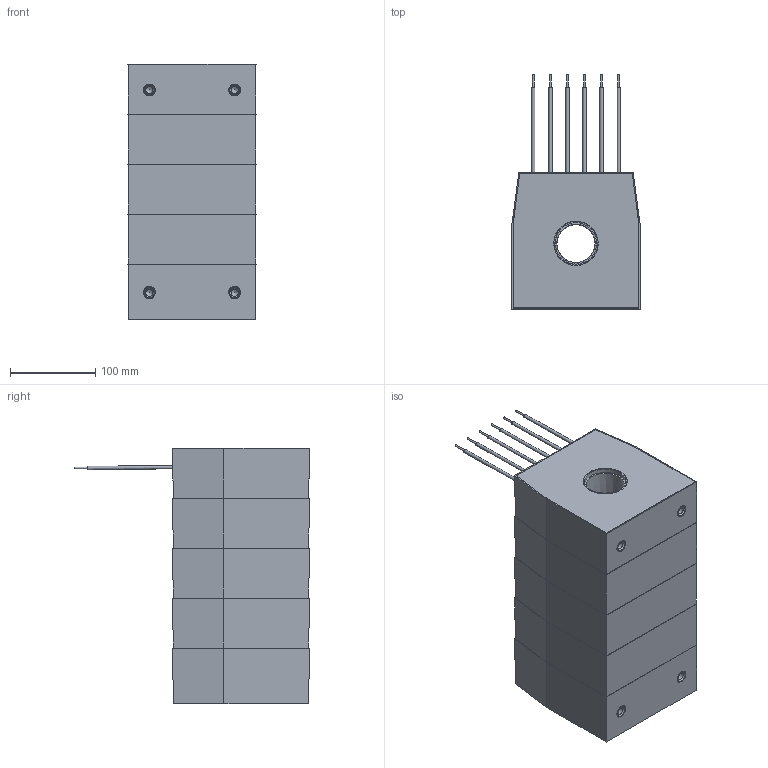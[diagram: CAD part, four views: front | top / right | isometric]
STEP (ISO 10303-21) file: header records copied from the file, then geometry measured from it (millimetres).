
FILE_DESCRIPTION(('STEP AP203'), '1');
FILE_NAME('ÒØÏ-ÍÒÇ-0,66-65Ñ (45 ìì, 5-é ãàáàðèò)', '2025-08-27T09:28:20', ('UNSPECIFIED'), ('UNSPECIFIED'), 'ASCON STEP Converter 1.3', 'ASCON Math Kernel', '');
FILE_SCHEMA(('CONFIG_CONTROL_DESIGN'));
Length unit declared in the file: millimetre
Assembly tree (21 placements, depth 2):
  (unnamed)
    (unnamed)
    (unnamed)  x3
    (unnamed)
    (unnamed)  x5
    (unnamed)  x4
    (unnamed)
    (unnamed)  x6
Bounding box: 150 x 274.82 x 299 mm (x, y, z)
Volume: 915602.4 mm3; surface area: 615609 mm2
Topology: 21 solids, 21 shells, 361 faces, 821 edges, 536 vertices
Faces by surface type: plane 236, cylinder 86, cone 31, torus 8
Full cylindrical faces by diameter (mm): 2 x6, 3.9 x6, 4 x5, 6 x16, 8.376 x4, 14 x8, 17 x4, 45 x1, 48.599 x10, 48.6 x1, 51 x1, 55.05 x1, 58.6 x1, 65.05 x1, 68.6 x1
Entity records: 7340 total; most frequent: CARTESIAN_POINT 926, DIRECTION 880, ORIENTED_EDGE 790, EDGE_CURVE 395, LINE 300, VECTOR 300, AXIS2_PLACEMENT_3D 290, VERTEX_POINT 287
